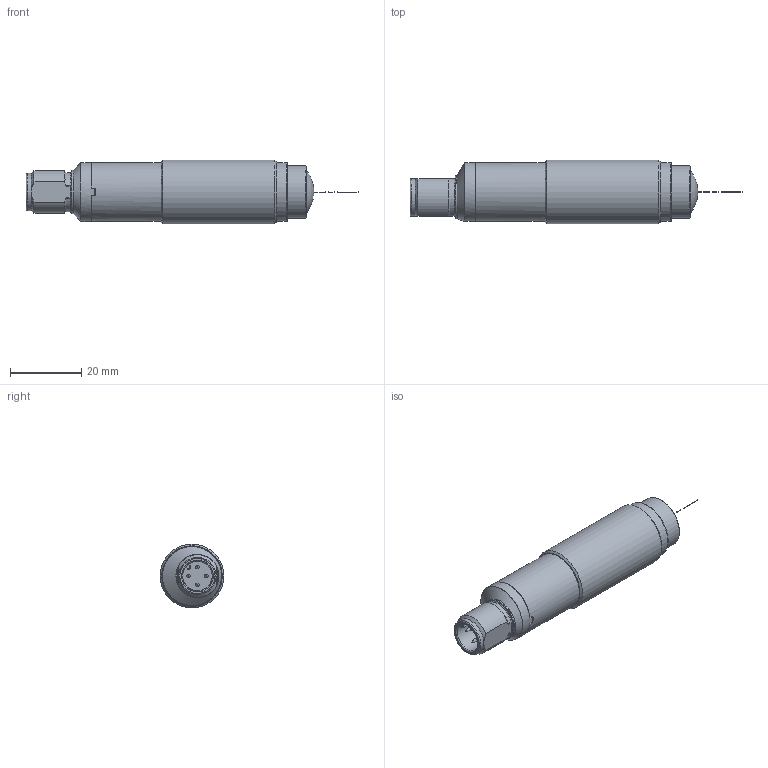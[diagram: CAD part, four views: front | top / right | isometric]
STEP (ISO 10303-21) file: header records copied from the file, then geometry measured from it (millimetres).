
FILE_DESCRIPTION(/* description */ (''),/* implementation_level */ '2;1');
FILE_NAME(/* name */ 'DSD-0226 S5-5-G8-62-SG-ST4.stp',/* time_stamp */ '2020-07-24T12:40:10+02:00',/* author */ (''),/* organization */ (''),/* preprocessor_version */ 'ST-DEVELOPER v16.7',/* originating_system */ 'SIEMENS PLM Software NX 12.0',/* authorisation */ '');
FILE_SCHEMA (('AUTOMOTIVE_DESIGN { 1 0 10303 214 3 1 1 1 }'));
Length unit declared in the file: millimetre
Products named in the file (1): FGut30D8E90Fyozy
Bounding box: 93.4 x 18 x 18 mm (x, y, z)
Surface area: 4756.3 mm2
Topology: 2 solids, 94 shells, 98 faces, 378 edges, 350 vertices
Faces by surface type: cylinder 35, plane 32, cone 13, bspline 11, torus 6, sphere 1
Full cylindrical faces by diameter (mm): 0.1 x3, 1 x4, 8.3 x1, 10.5 x1, 12.1 x1, 14.8 x1, 16.55 x2, 16.6 x1, 18 x1
Entity records: 6383 total; most frequent: CARTESIAN_POINT 2845, DIRECTION 490, ORIENTED_EDGE 358, EDGE_CURVE 352, VERTEX_POINT 350, AXIS2_PLACEMENT_3D 196, EDGE_LOOP 134, B_SPLINE_CURVE_WITH_KNOTS 112
